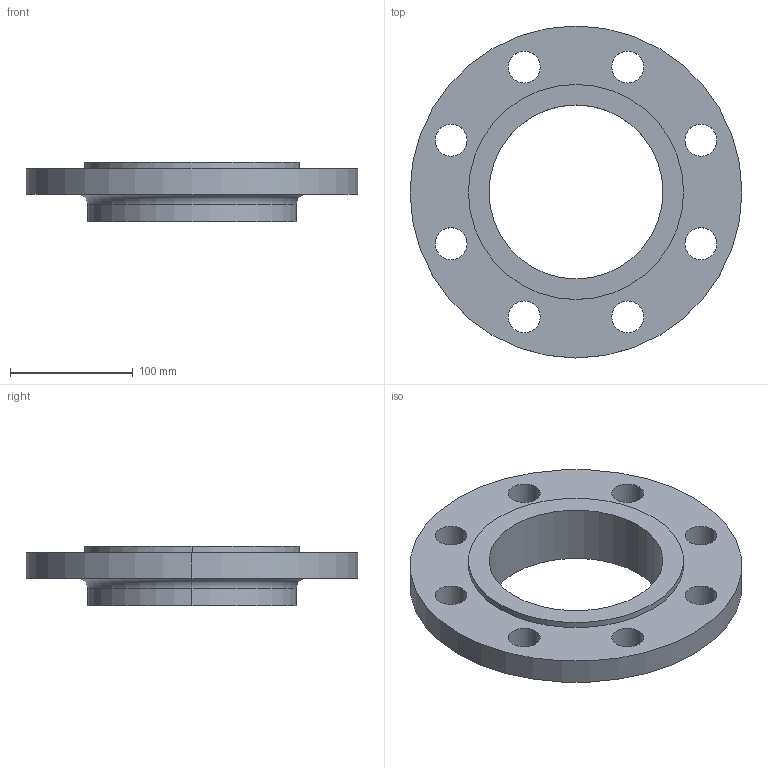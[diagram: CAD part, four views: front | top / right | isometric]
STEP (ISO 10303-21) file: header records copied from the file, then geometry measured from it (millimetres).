
FILE_DESCRIPTION (( 'STEP AP214' ), '1' );
FILE_NAME ('PN40 DN125 Type 12 - Type E Face.STEP', '2019-01-02T02:11:40', ( '' ), ( '' ), 'SwSTEP 2.0', 'SolidWorks 2019', '' );
FILE_SCHEMA (( 'AUTOMOTIVE_DESIGN' ));
Length unit declared in the file: millimetre
Products named in the file (1): PN40 DN125 Type 12 - Type E Face
Bounding box: 270 x 270 x 48 mm (x, y, z)
Volume: 985458.6 mm3; surface area: 140131.4 mm2
Topology: 1 solids, 1 shells, 30 faces, 76 edges, 50 vertices
Faces by surface type: cylinder 24, plane 4, torus 2
Entity records: 1006 total; most frequent: DIRECTION 190, CARTESIAN_POINT 157, ORIENTED_EDGE 152, AXIS2_PLACEMENT_3D 83, EDGE_CURVE 76, CIRCLE 52, EDGE_LOOP 50, VERTEX_POINT 50
